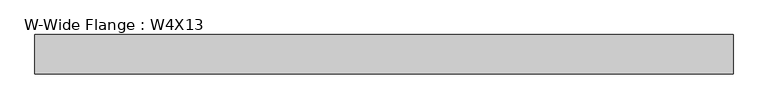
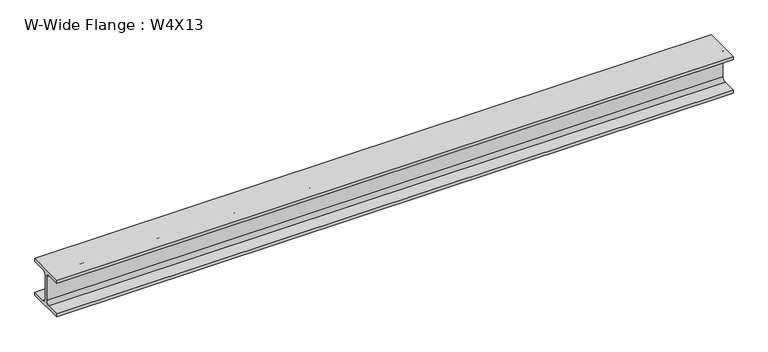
"""IFC4 building model written with IfcOpenShell, lengths in millimetres: beam geometry, W-Wide Flange : W4X13."""

from ifc_helpers import new_model, si_unit, point, frame, frame_2d, origin, place, context, project, spatial, polyline, circle_curve, trimmed, segment, composite_curve, outline, extrude, source, transform, mapped, element, save


def w_wide_flange_w4x13_e5668264(model_context):
    return source(origin(), model_context, "Body", "SweptSolid", [
        extrude(outline(composite_curve([segment(polyline([(51.562, -44.069), (51.562, -52.832), (-51.562, -52.832), (-51.562, -44.069), (-13.843, -44.069)]), True, "CONTINUOUS"), segment(trimmed(circle_curve(frame_2d((-13.843, -33.782)), 10.287), [point((-13.843, -44.069))], [point((-3.556, -33.782))], True, "CARTESIAN"), True, "CONTINUOUS"), segment(polyline([(-3.556, -33.782), (-3.556, 33.782)]), True, "CONTINUOUS"), segment(trimmed(circle_curve(frame_2d((-13.843, 33.782)), 10.287), [point((-3.556, 33.782))], [point((-13.843, 44.069))], True, "CARTESIAN"), True, "CONTINUOUS"), segment(polyline([(-13.843, 44.069), (-51.562, 44.069), (-51.562, 52.832), (51.562, 52.832), (51.562, 44.069), (13.843, 44.069)]), True, "CONTINUOUS"), segment(trimmed(circle_curve(frame_2d((13.843, 33.782)), 10.287), [point((13.843, 44.069))], [point((3.556, 33.782))], True, "CARTESIAN"), True, "CONTINUOUS"), segment(polyline([(3.556, 33.782), (3.556, -33.782)]), True, "CONTINUOUS"), segment(trimmed(circle_curve(frame_2d((13.843, -33.782)), 10.287), [point((3.556, -33.782))], [point((13.843, -44.069))], True, "CARTESIAN"), True, "CONTINUOUS"), segment(polyline([(13.843, -44.069), (51.562, -44.069)]), True, "CONTINUOUS")], self_intersect=False)), frame((-803.961836, 0.0, 0.0), z_axis=(1.0, 0.0, 0.0), x_axis=(0.0, 1.0, 0.0)), (0.0, 0.0, 1.0), 1836.3315481),
    ])


if __name__ == "__main__":
    model = new_model("IFC4")
    model_context = context("Model", 3, world=origin())
    ifc_project = project(units=[si_unit("LENGTHUNIT", "METRE", prefix="MILLI")], contexts=[model_context])
    site = spatial("IfcSite", under=ifc_project)
    building = spatial("IfcBuilding", under=site)
    placement = place(None, origin())
    w_wide_flange_w4x13_shape = w_wide_flange_w4x13_e5668264(model_context)
    element("IfcBeam", 1, ObjectType="W-Wide Flange : W4X13", at=placement, inside=building, context=model_context, shape_type="MappedRepresentation", body=[
        mapped(w_wide_flange_w4x13_shape, transform((0.0, 0.0, 0.0), x_axis=(1.0, 0.0, 0.0), y_axis=(0.0, 1.0, 0.0), z_axis=(0.0, 0.0, 1.0))),
    ])
    save(model, "model.ifc")
